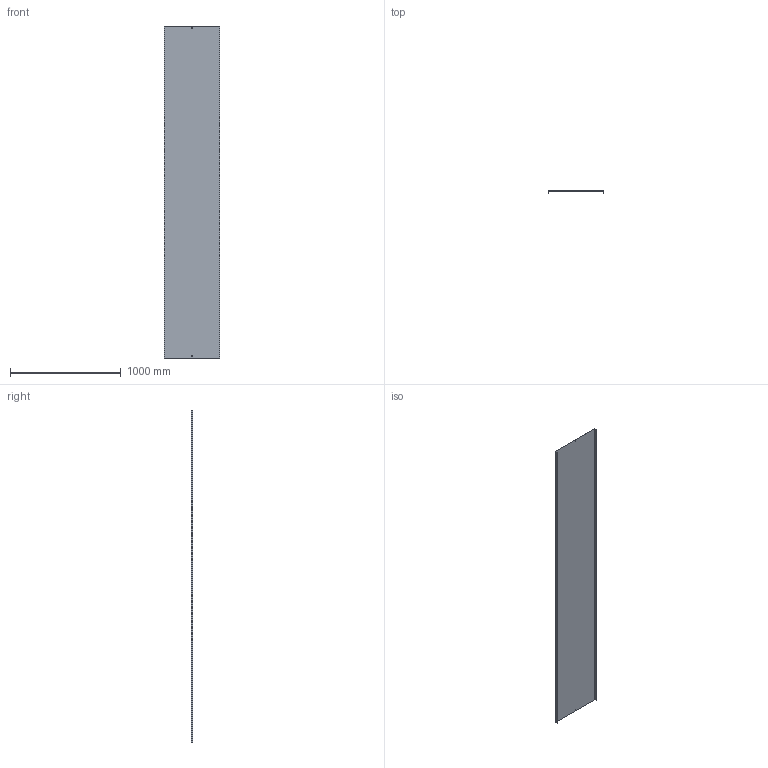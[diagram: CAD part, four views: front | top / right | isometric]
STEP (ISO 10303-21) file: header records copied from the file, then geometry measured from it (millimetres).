
FILE_DESCRIPTION (( 'STEP AP214' ), '1' );
FILE_NAME ('OCF_500.step', '2025-07-16T09:10:13', ( '' ), ( '' ), 'SwSTEP 2.0', 'SolidWorks 2023', '' );
FILE_SCHEMA (( 'AUTOMOTIVE_DESIGN' ));
Length unit declared in the file: millimetre
Products named in the file (1): OCF_500
Bounding box: 502 x 17 x 3000 mm (x, y, z)
Volume: 1601916 mm3; surface area: 3210952 mm2
Topology: 1 solids, 1 shells, 18 faces, 48 edges, 32 vertices
Faces by surface type: plane 18
Entity records: 583 total; most frequent: CARTESIAN_POINT 99, ORIENTED_EDGE 96, DIRECTION 86, LINE 48, VECTOR 48, EDGE_CURVE 48, VERTEX_POINT 32, EDGE_LOOP 22
